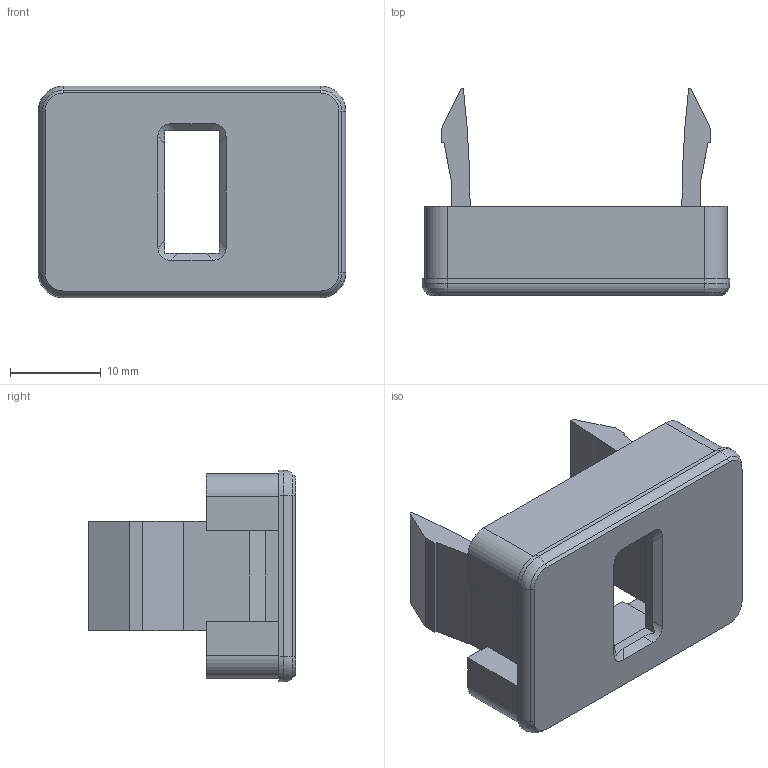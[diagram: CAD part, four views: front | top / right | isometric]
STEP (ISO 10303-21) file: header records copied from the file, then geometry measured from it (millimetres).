
FILE_DESCRIPTION(/* description */ (''),/* implementation_level */ '2;1');
FILE_NAME(/* name */ 'D:\Projects\cad_models\yaris_usb_port_cover\STEP\Toyota Yaris USB Cover Single v2.stp',/* time_stamp */ '2022-06-10T16:17:45-07:00',/* author */ ('Andrew'),/* organization */ (''),/* preprocessor_version */ 'ST-DEVELOPER v18.1',/* originating_system */ 'Autodesk Inventor 2021',/* authorisation */ '');
FILE_SCHEMA (('AUTOMOTIVE_DESIGN { 1 0 10303 214 3 1 1 }'));
Length unit declared in the file: millimetre
Products named in the file (1): Toyota Yaris USB Cover Single v2
Bounding box: 33.85 x 22.85 x 23.3 mm (x, y, z)
Volume: 3533.2 mm3; surface area: 5333.3 mm2
Topology: 5 solids, 5 shells, 113 faces, 290 edges, 188 vertices
Faces by surface type: plane 83, cylinder 22, bspline 4, cone 4
Entity records: 3449 total; most frequent: CARTESIAN_POINT 624, ORIENTED_EDGE 580, DIRECTION 566, EDGE_CURVE 290, LINE 234, VECTOR 234, VERTEX_POINT 188, AXIS2_PLACEMENT_3D 166
